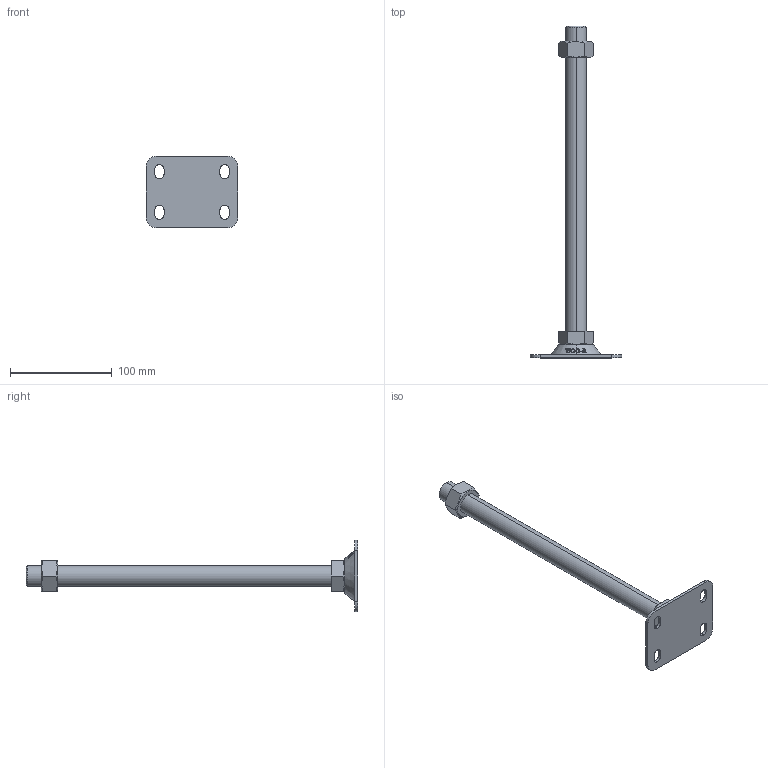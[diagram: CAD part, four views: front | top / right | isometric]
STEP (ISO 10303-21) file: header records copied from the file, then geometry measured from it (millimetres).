
FILE_DESCRIPTION (( 'STEP AP214' ), '1' );
FILE_NAME ('FABL7090-M20-300.step', '2021-03-28T23:53:00', ( '' ), ( '' ), 'SwSTEP 2.0', 'SolidWorks 2019', '' );
FILE_SCHEMA (( 'AUTOMOTIVE_DESIGN' ));
Length unit declared in the file: millimetre
Products named in the file (2): FABL7090-M20-300
Bounding box: 90 x 326 x 70 mm (x, y, z)
Volume: 142896.2 mm3; surface area: 37444.4 mm2
Topology: 2 solids, 2 shells, 146 faces, 384 edges, 252 vertices
Faces by surface type: plane 58, cylinder 48, cone 22, bspline 18
Entity records: 6096 total; most frequent: CARTESIAN_POINT 2668, ORIENTED_EDGE 768, DIRECTION 582, EDGE_CURVE 384, VERTEX_POINT 252, AXIS2_PLACEMENT_3D 210, EDGE_LOOP 166, LINE 162
